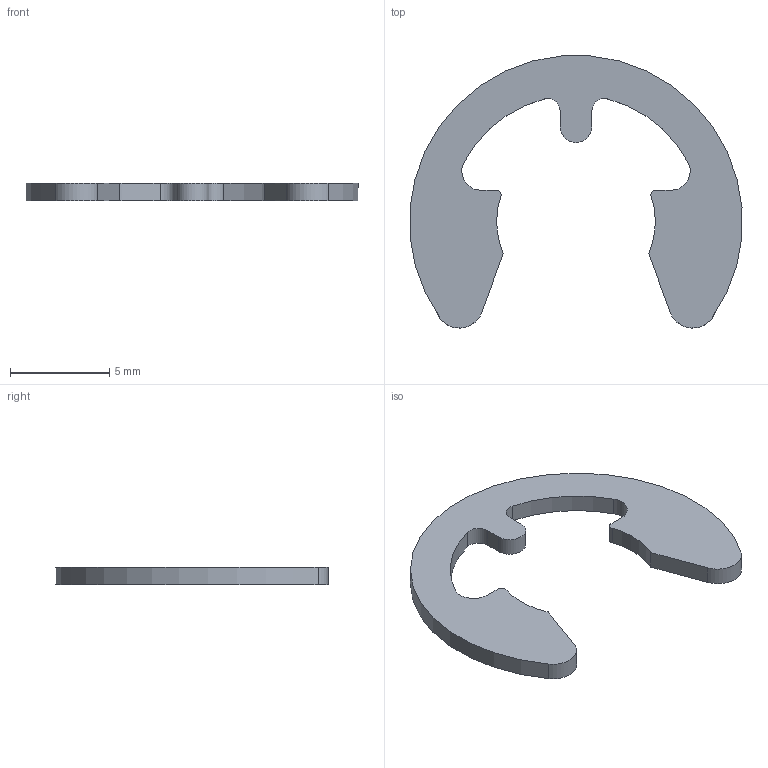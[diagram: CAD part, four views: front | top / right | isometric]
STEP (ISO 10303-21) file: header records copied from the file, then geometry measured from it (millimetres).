
FILE_DESCRIPTION(/* description */ ('일반용 테이퍼 및 줄어든 횡단면 리테이닝 링 - E-링 외부 시리즈 3CM1 리테이닝 링'),/* implementation_level */ '2;1');
FILE_NAME(/* name */ '',/* time_stamp */ '2024-08-09T13:03:13+09:00',/* author */ ('jhkim'),/* organization */ (''),/* preprocessor_version */ 'ST-DEVELOPER v20',/* originating_system */ 'Autodesk Inventor 2025',/* authorisation */ '');
FILE_SCHEMA (('AUTOMOTIVE_DESIGN { 1 0 10303 214 3 1 1 }'));
Length unit declared in the file: millimetre
Products named in the file (1): E형 멈춤링 10-8
Bounding box: 16.74 x 13.72 x 0.9 mm (x, y, z)
Volume: 87.3 mm3; surface area: 263.8 mm2
Topology: 1 solids, 1 shells, 22 faces, 60 edges, 40 vertices
Faces by surface type: cylinder 14, plane 8
Entity records: 755 total; most frequent: DIRECTION 134, CARTESIAN_POINT 123, ORIENTED_EDGE 120, EDGE_CURVE 60, AXIS2_PLACEMENT_3D 51, VERTEX_POINT 40, LINE 32, VECTOR 32
